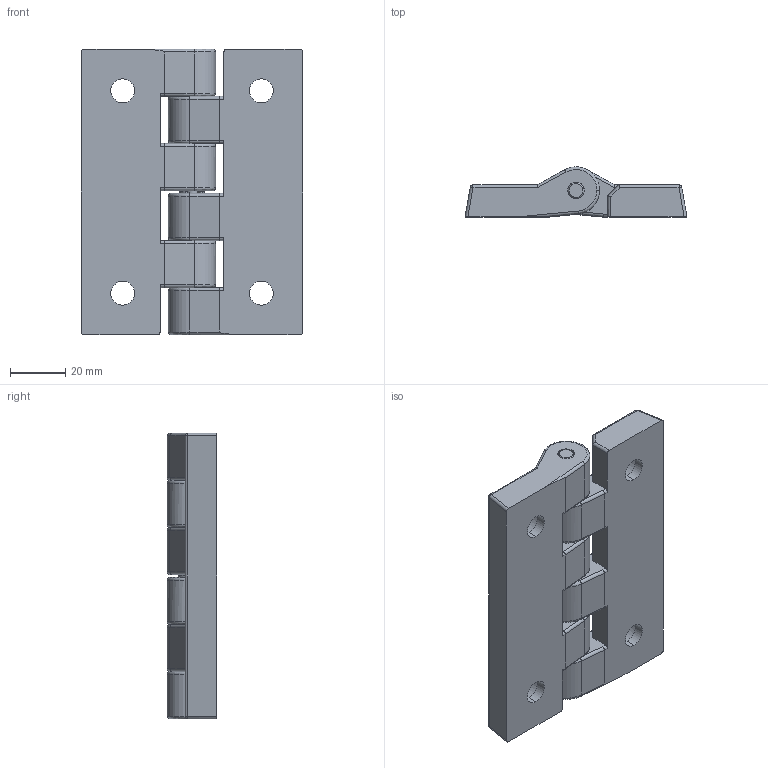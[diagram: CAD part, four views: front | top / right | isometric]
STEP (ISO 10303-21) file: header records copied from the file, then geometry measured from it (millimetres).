
FILE_DESCRIPTION (( 'STEP AP203' ), '1' );
FILE_NAME ('B57 KH-P23.STEP', '2010-10-11T05:41:26', ( ' ' ), ( '' ), 'SwSTEP 2.0', 'SolidWorks 2010', '' );
FILE_SCHEMA (( 'CONFIG_CONTROL_DESIGN' ));
Length unit declared in the file: millimetre
Products named in the file (4): B57 KH-P23; E rings GB_GB_CONNECTING_PIECE_RINGS_HR 4; H022-02-001; H022-02-002
Assembly tree (4 placements, depth 2):
  B57 KH-P23
    E rings GB_GB_CONNECTING_PIECE_RINGS_HR 4
    H022-02-001  x2
    H022-02-002
Bounding box: 80 x 18 x 103 mm (x, y, z)
Volume: 88660.4 mm3; surface area: 29320.3 mm2
Topology: 4 solids, 4 shells, 206 faces, 514 edges, 318 vertices
Faces by surface type: cylinder 118, plane 60, bspline 24, cone 4
Entity records: 4351 total; most frequent: CARTESIAN_POINT 1056, DIRECTION 614, ORIENTED_EDGE 602, EDGE_CURVE 301, AXIS2_PLACEMENT_3D 231, VERTEX_POINT 189, VECTOR 152, LINE 152
